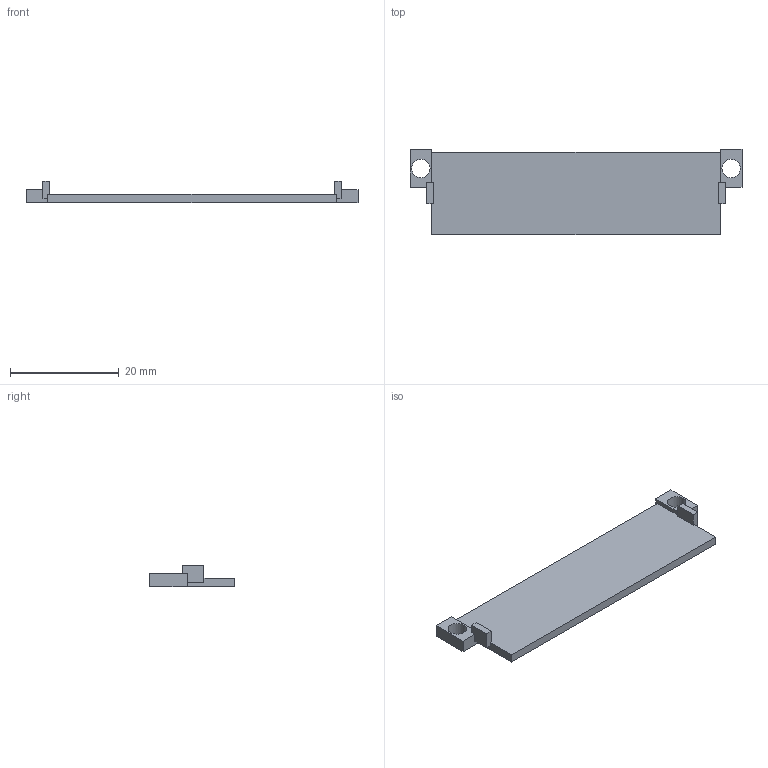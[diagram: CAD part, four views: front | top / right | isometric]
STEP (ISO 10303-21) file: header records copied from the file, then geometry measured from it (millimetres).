
FILE_DESCRIPTION(('FreeCAD Model'),'2;1');
FILE_NAME('Open CASCADE Shape Model','2026-11-20T08:25:38',('FreeCAD'),( 'FreeCAD'),'Open CASCADE STEP processor 7.8','FreeCAD','Unknown');
FILE_SCHEMA(('AUTOMOTIVE_DESIGN { 1 0 10303 214 1 1 1 1 }'));
Length unit declared in the file: millimetre
Products named in the file (1): Open CASCADE STEP translator 7.8 38
Bounding box: 61.2 x 15.7 x 4 mm (x, y, z)
Volume: 1410.4 mm3; surface area: 2081.6 mm2
Topology: 1 solids, 1 shells, 30 faces, 84 edges, 56 vertices
Faces by surface type: plane 28, cylinder 2
Full cylindrical faces by diameter (mm): 3.4 x2
Entity records: 970 total; most frequent: CARTESIAN_POINT 171, ORIENTED_EDGE 168, DIRECTION 150, EDGE_CURVE 84, LINE 80, VECTOR 80, VERTEX_POINT 56, AXIS2_PLACEMENT_3D 35
